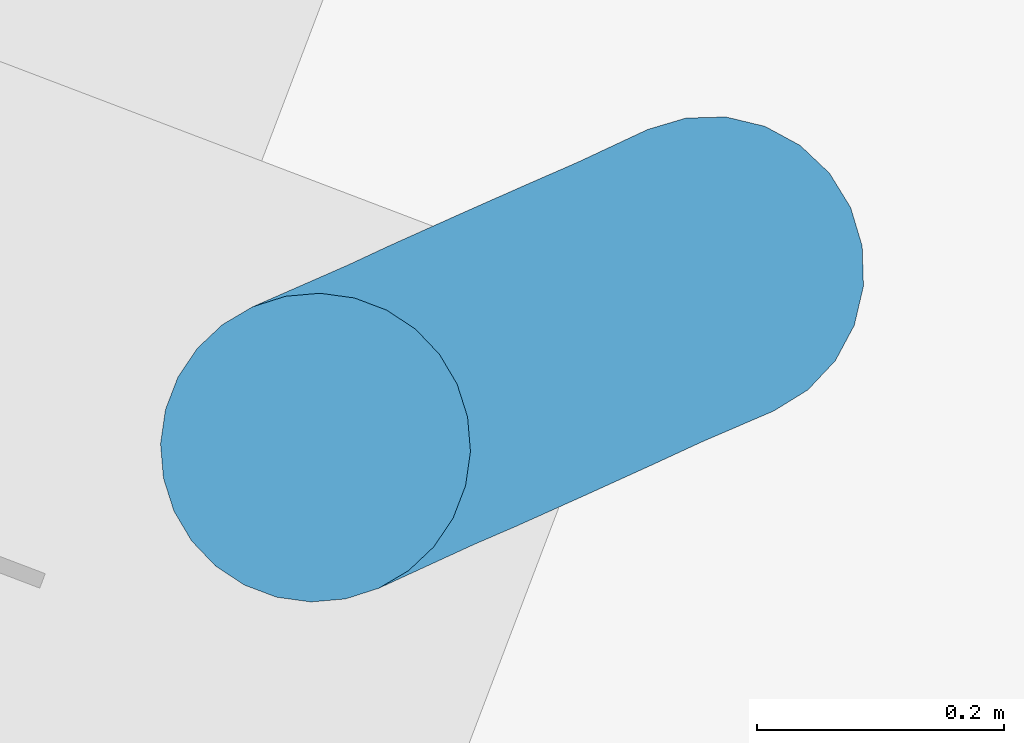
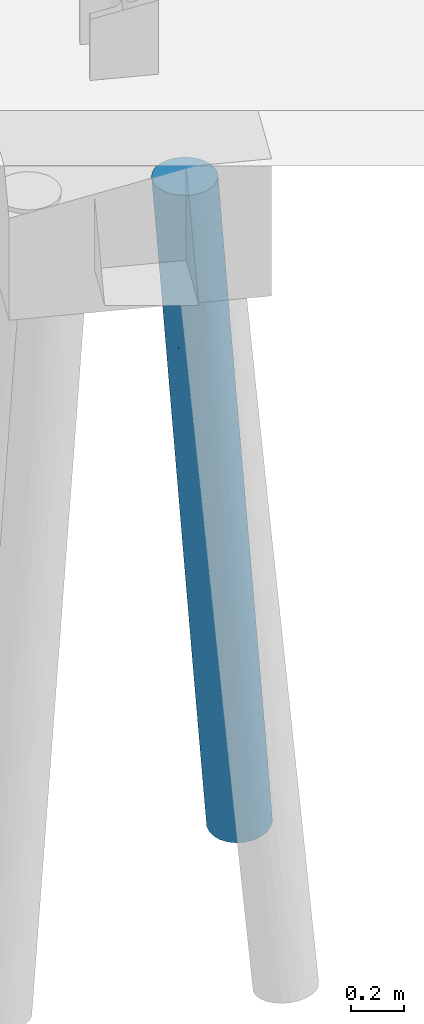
# One storey, part 15 of 46: 1 pile.
"""IFC2X3 building model written with IfcOpenShell, lengths in millimetres."""

from ifc_helpers import new_model, entity, si_unit, converted_unit, derived_unit, direction, frame, origin, place, context, subcontext, project, spatial, faceted_brep, source, transform, mapped, material, type_object, type_shapes, element, save


model = new_model("IFC2X3")

# Units and contexts
model_context = context("Model", 3, precision=0.01, world=origin(), true_north=direction((6.123233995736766e-17, 1.0)))
body_context = subcontext(model_context, "Body", "Model", "MODEL_VIEW")
ifc_project = project(units=[si_unit("LENGTHUNIT", "METRE", prefix="MILLI"), converted_unit("PLANEANGLEUNIT", "DEGREE", entity("IfcPlaneAngleMeasure", 0.017453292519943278), si_unit("PLANEANGLEUNIT", "RADIAN"), dimensions=[0, 0, 0, 0, 0, 0, 0]), si_unit("AREAUNIT", "SQUARE_METRE"), derived_unit("THERMALTRANSMITTANCEUNIT", [(si_unit("MASSUNIT", "GRAM", prefix="KILO"), 1), (si_unit("THERMODYNAMICTEMPERATUREUNIT", "KELVIN"), -1), (si_unit("TIMEUNIT", "SECOND"), -3)])], contexts=[model_context])

# Site, building, storey
site_placement = place(None, frame((-72937.88054949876, 11621.45624098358, 0.0), z_axis=(0.0, 0.0, 1.0), x_axis=(0.9346418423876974, -0.35559053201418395, 0.0)))
site = spatial("IfcSite", under=ifc_project, at=site_placement, Name="Default", CompositionType="ELEMENT")
building_placement = place(site_placement, origin())
building = spatial("IfcBuilding", under=site, at=building_placement, CompositionType="ELEMENT")
storey_placement = place(building_placement, origin())
storey = spatial("IfcBuildingStorey", under=building, at=storey_placement, Name="00 begane grond", CompositionType="ELEMENT", Elevation=0.0)

# Pile
ifc_material = material(Name="beton_gewapend_prefab-element_c45/55")
type_product = type_object("IfcTypeProduct", Name="Type 01", material=ifc_material)
shared_shape = source(origin(), body_context, "Body", "Brep", [
    faceted_brep([(50.02983679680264, 41.219149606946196, -1478.3429510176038), (41.770052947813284, 0.0, -1615.992665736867), (-21.492869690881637, 34.07967924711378, -2142.478153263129), (-196.51418126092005, 41.35907440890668, -1560.459568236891), (-209.7685117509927, 0.0, -1615.993463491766), (-120.39371842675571, 27.815116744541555, -840.0), (-105.46135978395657, 105.60554685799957, -2414.744852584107), (-29.01608810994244, 89.9027707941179, -1907.5825387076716), (-88.8773638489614, 91.39060439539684, -2432.143714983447), (44.04069234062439, 66.4881713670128, -1422.150587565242), (100.55257203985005, 77.93622523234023, -840.0), (115.53639022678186, 54.235467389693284, -840.0), (-181.63351961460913, 47.83542906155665, -3540.4622999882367), (-228.8866429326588, 32.35238063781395, -4013.333582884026), (-241.29781855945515, 62.499999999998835, -4011.9545633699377), (124.838162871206, 27.815116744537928, -840.0), (127.99146025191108, 0.0, -840.0), (80.6380595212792, 97.7289353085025, -840.0), (-1.0422673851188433, 115.29700921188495, -1306.6345347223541), (56.79144948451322, 112.62110848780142, -840.0), (-82.66188090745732, 124.23733970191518, -1479.1096584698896), (-119.59016639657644, 124.77532272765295, -1868.4753366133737), (-148.0004270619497, 121.55050259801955, -1927.9224619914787), (-25.764066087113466, 121.86598902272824, -840.0), (2.2222222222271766, 125.0, -840.0), (35.238837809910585, 88.30507823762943, -1343.9943162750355), (30.208510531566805, 121.86598902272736, -840.0), (-38.42848163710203, 123.4640225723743, -1382.7576650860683), (-59.298226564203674, 117.91120533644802, -1769.4495348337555), (-121.64165871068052, 118.88184081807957, -2304.5646505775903), (-105.46067851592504, 124.17311504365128, -1939.1271630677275), (-181.54271840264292, 0.0, -3625.807607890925), (-224.65342205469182, 0.0, -4013.803940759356), (-186.42266103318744, 99.1691675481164, -3226.87509877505), (-111.16783038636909, 79.40373738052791, -2734.7208670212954), (-187.86059930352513, 76.09517863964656, -3448.7603995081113), (-294.2594631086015, 123.9306076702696, -3360.5895502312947), (-348.8888888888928, 125.0, -4000.0), (-381.04339378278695, 120.74072828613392, -3996.4272772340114), (-71.50265177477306, 37.61355729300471, -2582.985799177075), (-105.1394697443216, 22.11026756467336, -2920.330251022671), (-119.53291308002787, 47.835429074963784, -2981.5568411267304), (-160.26870491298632, 23.53094104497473, -3414.1045295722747), (-238.88036705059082, 115.48494156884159, -3443.09153660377), (-286.7711554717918, 108.25317547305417, -4006.901970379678), (-261.04114782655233, 88.38834764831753, -4009.7608601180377), (-316.7343839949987, 120.74072828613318, -4003.5727227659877), (-61.65923548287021, 74.64816535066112, -2322.8523974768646), (-84.00174733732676, 60.02171841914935, -2608.908596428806), (-151.97718420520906, 123.99260475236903, -2371.21148137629), (-173.2739820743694, 115.31995815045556, -2856.223431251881), (-123.54701580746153, 0.0, -840.0), (-295.99000769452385, 0.0, -2391.9869269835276), (-250.82857575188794, 22.617884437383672, -2004.2180489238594), (-107.44397040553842, 105.89787173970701, -1225.6035634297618), (-76.19361507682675, 97.72893530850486, -840.0), (-52.347005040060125, 112.6211084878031, -840.0), (-281.4812245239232, 123.93060767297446, -3541.076638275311), (-109.06614769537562, 117.57336724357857, -1457.2474766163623), (-111.0919457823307, 54.235467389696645, -840.0), (-15.85514051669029, 105.72630914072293, -1606.5585830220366), (-158.7756678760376, 105.96661342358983, -1688.5825591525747), (-146.68659472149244, 88.47759853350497, -1380.5978408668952), (-404.9818286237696, 23.95962394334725, -3393.901362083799), (-384.5571817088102, 0.0, -3189.0914931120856), (-348.5966640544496, 22.310072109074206, -2883.6216315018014), (-456.47995921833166, 62.500000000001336, -3988.0454366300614), (-468.89113484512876, 32.35238063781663, -3986.6664171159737), (-416.28748070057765, 47.83542904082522, -3560.8267027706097), (-337.6622645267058, 115.48494156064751, -3465.7921474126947), (-411.00662230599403, 108.25317547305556, -3993.0980296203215), (-204.57839676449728, 89.69967503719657, -1912.868459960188), (-241.9682357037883, 100.09571921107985, -2359.71747411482), (-255.69185443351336, 84.13968982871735, -2324.129304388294), (-96.10812759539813, 77.93622523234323, -840.0), (-377.92930595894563, 99.16916753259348, -3572.292603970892), (-436.73662995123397, 88.38834764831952, -3990.239139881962), (-206.9618348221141, 60.37792335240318, -1731.5361763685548), (-296.17437932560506, 43.53585544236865, -2464.5182361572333), (-358.4295495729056, 47.83542903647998, -3040.1053226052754), (-379.61635653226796, 76.09517861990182, -3378.5322028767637), (-430.0136077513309, 0.0, -3598.1993274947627), (-306.3551153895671, 77.61365432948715, -2729.901333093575), (-213.4617402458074, 118.14633713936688, -2411.4959163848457), (-159.2186646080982, 65.41382269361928, -1328.4086999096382), (-67.97340634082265, 109.92592992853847, -2010.6352011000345), (-179.43548008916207, 124.76102802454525, -2404.960456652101), (-13.219750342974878, 66.34050229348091, -1938.3332116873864), (-236.1740964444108, 124.51562049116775, -2886.015168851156), (-270.1086403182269, 119.49229851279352, -2958.6820679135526), (-268.3059733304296, 110.2317272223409, -2741.026078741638), (-320.7170568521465, 99.16916752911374, -3057.382361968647), (-473.12435572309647, 0.0, -3986.1960592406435), (-138.91569201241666, 99.37675608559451, -2796.855638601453), (-220.46267944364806, 123.93060767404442, -2991.909732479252), (-44.45135435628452, 0.0, -2391.9853314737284), (-247.1590829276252, 66.69543969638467, -2127.0964328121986), (-134.55238820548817, 0.0, -3202.8946361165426), (-89.50217198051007, 0.0, -2797.442690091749), (-340.273594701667, 0.0, -2790.5392100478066), (-303.09738986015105, 21.900839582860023, -2473.462328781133), (-246.59414544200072, 45.758522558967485, -2025.9931784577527), (-120.39371842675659, -27.815116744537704, -840.0), (-111.09194578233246, -54.23546738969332, -840.0), (-96.1081275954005, -77.93622523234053, -840.0), (-76.19361507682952, -97.72893530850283, -840.0), (-52.3470050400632, -112.62110848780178, -840.0), (-25.764066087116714, -121.86598902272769, -840.0), (2.22222222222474, -125.0, -840.0), (30.20851053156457, -121.86598902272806, -840.0), (56.7914494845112, -112.62110848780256, -840.0), (80.63805952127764, -97.72893530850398, -840.0), (100.55257203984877, -77.93622523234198, -840.0), (115.53639022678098, -54.23546738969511, -840.0), (124.83816287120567, -27.815116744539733, -840.0), (-241.96823566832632, -100.09571920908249, -2359.717473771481), (-268.30597321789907, -110.23172722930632, -2741.026077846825), (-213.46174017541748, -118.14633716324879, -2411.4959163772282), (-187.1422997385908, -67.5957584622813, -1592.1374826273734), (-196.5141812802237, -41.359074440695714, -1560.4595685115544), (-82.66188086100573, -124.2373397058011, -1479.1096583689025), (-13.219750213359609, -66.3405022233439, -1938.3332109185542), (35.23883807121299, -88.30507821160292, -1343.9943141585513), (-29.016087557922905, -89.90277069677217, -1907.5825346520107), (-109.06614766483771, -117.57336725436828, -1457.2474766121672), (-294.2594631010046, -123.93060767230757, -3360.5895503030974), (-337.66226453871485, -115.48494156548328, -3465.7921476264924), (-381.04339378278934, -120.74072828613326, -3996.4272772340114), (-320.717056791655, -99.16916754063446, -3057.382361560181), (-379.61635651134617, -76.09517863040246, -3378.53220276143), (-377.9293059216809, -99.16916753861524, -3572.292603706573), (-186.42266103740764, -99.16916753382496, -3226.875098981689), (-238.88036707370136, -115.48494156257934, -3443.0915369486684), (-286.77115547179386, -108.25317547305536, -4006.901970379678), (-228.88664293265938, -32.352380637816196, -4013.333582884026), (-181.63351956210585, -47.835429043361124, -3540.4622995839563), (-241.29781855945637, -62.50000000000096, -4011.9545633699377), (-107.44397039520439, -105.89787175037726, -1225.6035634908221), (-38.428481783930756, -123.46402262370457, -1382.7576634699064), (-468.89113484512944, -32.35238063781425, -3986.6664171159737), (-138.91569233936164, -99.37675620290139, -2796.855640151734), (-173.2739821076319, -115.31995832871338, -2856.223427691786), (-160.26870486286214, -23.530941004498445, -3414.104529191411), (-187.86059935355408, -76.09517862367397, -3448.760400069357), (-261.041147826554, -88.38834764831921, -4009.7608601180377), (-306.3551154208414, -77.61365434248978, -2729.901333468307), (-348.8888888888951, -125.0, -4000.0), (-416.2874806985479, -47.83542904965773, -3560.826702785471), (-456.47995921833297, -62.49999999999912, -3988.0454366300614), (-436.7366299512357, -88.38834764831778, -3990.239139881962), (-411.0066223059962, -108.25317547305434, -3993.0980296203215), (-71.50265159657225, -37.613557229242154, -2582.9857977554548), (-21.492869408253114, -34.07967918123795, -2142.4781508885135), (-84.00174724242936, -60.02171839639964, -2608.9085956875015), (-281.4812244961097, -123.9306076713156, -3541.076638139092), (-220.46267940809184, -123.93060767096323, -2991.9097323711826), (-158.7756678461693, -105.9666134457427, -1688.5825592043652), (-148.00042700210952, -121.5505026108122, -1927.922461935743), (-1.0422669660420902, -115.29700910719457, -1306.6345332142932), (-59.298225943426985, -117.91120535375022, -1769.4495288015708), (-15.85514048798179, -105.72630911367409, -1606.5585831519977), (-270.1086403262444, -119.4922985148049, -2958.682068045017), (50.02983688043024, -41.21914955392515, -1478.342950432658), (-146.6865947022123, -88.47759855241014, -1380.5978408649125), (-296.1743793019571, -43.53585546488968, -2464.5182360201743), (-348.59666404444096, -22.310072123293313, -2883.6216314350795), (-358.42954957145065, -47.83542905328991, -3040.1053226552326), (57.21126448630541, -65.80573689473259, -1307.4694469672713), (-67.97340649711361, -109.92593000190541, -2010.6352012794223), (-121.64165783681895, -118.88184074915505, -2304.564644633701), (-105.13946990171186, -22.110267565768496, -2920.330252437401), (-179.43547996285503, -124.76102802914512, -2404.960456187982), (-316.73438399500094, -120.7407282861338, -4003.5727227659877), (-119.53291301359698, -47.8354290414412, -2981.5568406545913), (-250.82857577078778, -22.61788446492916, -2004.218049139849), (-404.98182862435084, -23.95962395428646, -3393.901362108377), (-61.65923550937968, -74.64816548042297, -2322.852396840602), (-243.17628094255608, -45.971171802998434, -1995.9919190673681), (-105.46135971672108, -105.60554680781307, -2414.7448526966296), (-111.16783063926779, -79.40373735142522, -2734.7208695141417), (-119.59016630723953, -124.77532273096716, -1868.4753363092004), (-236.1740963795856, -124.51562049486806, -2886.0151686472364), (-204.57839665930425, -89.69967507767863, -1912.868459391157), (-247.15908295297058, -66.69543974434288, -2127.09643331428), (-88.87736442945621, -91.39060438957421, -2432.1437202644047), (-255.69185439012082, -84.13968979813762, -2324.1293037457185), (-105.46067843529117, -124.17311503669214, -1939.1271628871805), (-168.17815851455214, -123.85607816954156, -2526.387901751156), (-303.0973898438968, -21.90083960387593, -2473.4623286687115)], [[[0, 1, 2]], [[3, 4, 5]], [[6, 7, 8]], [[9, 10, 11]], [[12, 13, 14]], [[15, 16, 1]], [[17, 18, 19]], [[20, 21, 22]], [[23, 24, 20]], [[25, 17, 10]], [[26, 18, 27]], [[27, 20, 24]], [[28, 29, 30]], [[31, 32, 13]], [[33, 34, 35]], [[36, 37, 38]], [[39, 40, 41]], [[41, 42, 12]], [[43, 33, 44]], [[45, 33, 35]], [[46, 43, 44]], [[34, 47, 48]], [[49, 29, 50]], [[4, 51, 5]], [[30, 27, 28]], [[52, 4, 53]], [[54, 55, 56]], [[37, 36, 57]], [[56, 23, 58]], [[46, 37, 57]], [[59, 3, 5]], [[11, 15, 0]], [[3, 53, 4]], [[7, 60, 25]], [[44, 33, 45]], [[54, 61, 62]], [[63, 64, 65]], [[66, 67, 68]], [[36, 38, 69]], [[70, 69, 38]], [[71, 72, 73]], [[74, 55, 62]], [[75, 70, 76]], [[71, 77, 62]], [[78, 79, 65]], [[80, 75, 76]], [[63, 81, 64]], [[82, 80, 79]], [[66, 80, 76]], [[61, 83, 72]], [[59, 84, 3]], [[85, 6, 29]], [[25, 10, 9]], [[86, 21, 30]], [[35, 14, 45]], [[33, 43, 50]], [[54, 56, 58]], [[22, 58, 20]], [[87, 0, 2]], [[0, 15, 1]], [[83, 86, 88]], [[40, 42, 41]], [[89, 69, 90]], [[84, 59, 74]], [[72, 71, 61]], [[91, 80, 82]], [[79, 80, 68]], [[14, 35, 12]], [[92, 81, 67]], [[41, 35, 34]], [[48, 39, 41]], [[93, 8, 34]], [[50, 93, 33]], [[94, 43, 57]], [[36, 69, 89]], [[91, 69, 75]], [[48, 41, 34]], [[95, 2, 1]], [[91, 82, 72]], [[78, 96, 82]], [[90, 91, 72]], [[71, 62, 61]], [[13, 42, 31]], [[41, 12, 35]], [[46, 57, 43]], [[94, 57, 36]], [[97, 31, 42]], [[40, 97, 42]], [[12, 42, 13]], [[98, 97, 40, 95]], [[2, 95, 39]], [[55, 54, 62]], [[61, 54, 58]], [[83, 61, 22]], [[20, 58, 23]], [[58, 22, 61]], [[86, 83, 22]], [[88, 89, 83]], [[29, 49, 30]], [[88, 36, 89]], [[83, 89, 90]], [[40, 39, 95]], [[87, 2, 48]], [[39, 48, 2]], [[87, 48, 47]], [[87, 47, 7]], [[47, 34, 8]], [[9, 0, 87]], [[85, 60, 7]], [[17, 25, 60]], [[87, 7, 9]], [[47, 8, 7]], [[6, 8, 93]], [[50, 6, 93]], [[33, 93, 34]], [[6, 50, 29]], [[50, 43, 94]], [[60, 85, 28]], [[49, 86, 30]], [[60, 28, 18]], [[28, 27, 18]], [[26, 27, 24]], [[20, 27, 21]], [[60, 18, 17]], [[26, 19, 18]], [[84, 62, 77]], [[82, 96, 73]], [[83, 90, 72]], [[91, 90, 69]], [[88, 94, 36]], [[94, 88, 49]], [[66, 68, 80]], [[68, 67, 63]], [[63, 65, 79]], [[81, 63, 67]], [[68, 63, 79]], [[78, 82, 79]], [[65, 99, 100]], [[53, 101, 78]], [[78, 65, 100]], [[70, 75, 69]], [[91, 75, 80]], [[71, 73, 96]], [[73, 72, 82]], [[28, 85, 29]], [[6, 85, 7]], [[52, 53, 100]], [[96, 78, 101]], [[3, 84, 77]], [[62, 84, 74]], [[22, 21, 86]], [[30, 21, 27]], [[0, 9, 11]], [[25, 9, 7]], [[86, 49, 88]], [[94, 49, 50]], [[78, 100, 53]], [[65, 64, 99]], [[52, 100, 99]], [[96, 101, 77]], [[101, 53, 3]], [[3, 77, 101]], [[96, 77, 71]], [[56, 55, 74, 59, 5, 51, 102, 103, 104, 105, 106, 107, 108, 109, 110, 111, 112, 113, 114, 16, 15, 11, 10, 17, 19, 26, 24, 23]], [[4, 102, 51]], [[115, 116, 117]], [[104, 103, 118]], [[103, 102, 119]], [[108, 107, 120]], [[121, 122, 123]], [[107, 124, 120]], [[125, 126, 127]], [[128, 129, 130]], [[131, 132, 133]], [[134, 135, 136]], [[106, 105, 137]], [[109, 108, 138]], [[81, 92, 139]], [[131, 140, 141]], [[31, 97, 142]], [[143, 131, 144]], [[145, 129, 128]], [[125, 127, 146]], [[147, 139, 148]], [[130, 149, 150]], [[151, 152, 153]], [[125, 154, 155]], [[156, 157, 124]], [[158, 159, 160]], [[119, 102, 4]], [[110, 109, 158]], [[126, 125, 161]], [[162, 114, 113]], [[111, 158, 160]], [[163, 137, 105]], [[164, 165, 166]], [[122, 112, 111]], [[1, 16, 114]], [[162, 113, 167]], [[122, 121, 167]], [[168, 159, 169]], [[142, 97, 170]], [[171, 157, 117]], [[146, 172, 154]], [[104, 118, 163]], [[160, 159, 168]], [[104, 163, 105]], [[131, 133, 144]], [[115, 145, 128]], [[143, 144, 136]], [[152, 162, 121]], [[148, 149, 129]], [[151, 153, 173]], [[4, 174, 119]], [[166, 175, 147]], [[176, 121, 123]], [[177, 174, 164]], [[178, 169, 141]], [[132, 172, 133]], [[173, 179, 143]], [[180, 157, 171]], [[137, 156, 124]], [[162, 1, 114]], [[95, 1, 152]], [[126, 150, 127]], [[32, 31, 134]], [[161, 181, 117]], [[115, 156, 182]], [[177, 183, 118]], [[148, 129, 147]], [[145, 164, 166]], [[172, 132, 154]], [[165, 175, 166]], [[178, 141, 140]], [[131, 143, 179]], [[173, 143, 135]], [[140, 184, 178]], [[121, 176, 153]], [[150, 126, 130]], [[117, 116, 161]], [[162, 152, 1]], [[151, 170, 95]], [[129, 145, 166]], [[182, 156, 163]], [[182, 183, 185]], [[156, 115, 117]], [[136, 135, 143]], [[135, 134, 142]], [[146, 154, 125]], [[155, 154, 132]], [[142, 170, 173]], [[31, 142, 134]], [[135, 142, 173]], [[173, 170, 151]], [[98, 95, 170, 97]], [[124, 107, 106]], [[156, 137, 163]], [[106, 137, 124]], [[120, 124, 157]], [[120, 157, 180]], [[117, 157, 156]], [[169, 186, 187]], [[125, 181, 161]], [[128, 126, 116]], [[171, 117, 181]], [[153, 179, 173]], [[152, 151, 95]], [[179, 153, 176]], [[121, 153, 152]], [[176, 184, 179]], [[123, 168, 178]], [[184, 176, 123]], [[122, 111, 160]], [[112, 167, 113]], [[123, 122, 160]], [[131, 179, 140]], [[178, 184, 123]], [[184, 140, 179]], [[132, 131, 141]], [[141, 155, 132]], [[155, 187, 181]], [[155, 141, 187]], [[159, 186, 169]], [[186, 159, 138]], [[138, 158, 109]], [[186, 138, 180]], [[120, 138, 108]], [[159, 158, 138]], [[110, 158, 111]], [[115, 182, 185]], [[183, 182, 118]], [[161, 116, 126]], [[128, 116, 115]], [[171, 181, 187]], [[181, 125, 155]], [[139, 175, 81]], [[166, 147, 129]], [[64, 81, 175]], [[165, 64, 175]], [[147, 175, 139]], [[99, 64, 165]], [[145, 183, 164]], [[164, 188, 165]], [[4, 52, 174]], [[149, 130, 129]], [[128, 130, 126]], [[185, 145, 115]], [[145, 185, 183]], [[160, 168, 123]], [[178, 168, 169]], [[119, 174, 177]], [[164, 174, 188]], [[119, 118, 103]], [[163, 118, 182]], [[120, 180, 138]], [[186, 180, 171]], [[162, 167, 121]], [[122, 167, 112]], [[171, 187, 186]], [[169, 187, 141]], [[165, 188, 99]], [[52, 99, 188]], [[52, 188, 174]], [[119, 177, 118]], [[183, 177, 164]], [[127, 150, 149, 148, 139, 92, 67, 66, 76, 70, 38, 37, 46, 44, 45, 14, 13, 32, 134, 136, 144, 133, 172, 146]]]),
])
type_shapes(type_product, [shared_shape])
pile_placement = place(storey_placement, frame((57870.0, 29060.0, 0.0), z_axis=(0.0, 0.0, 1.0), x_axis=(-0.7071067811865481, -0.707106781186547, 0.0)))
element("IfcPile", 1, at=pile_placement, inside=storey, type_object=type_product, material=ifc_material, Name="17.21_Prefab funderingspaal rond", ObjectType="prefab paal rond", PredefinedType="NOTDEFINED", context=body_context, shape_type="MappedRepresentation", body=[
    mapped(shared_shape, transform((0.0, 0.0, 0.0), scale=1.0)),
])

save(model, "model.ifc")
